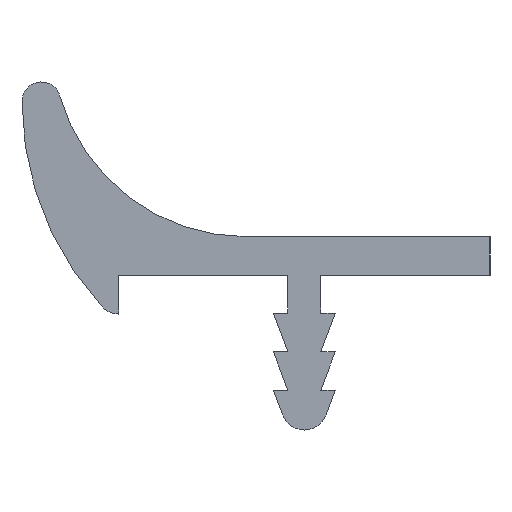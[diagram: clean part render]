
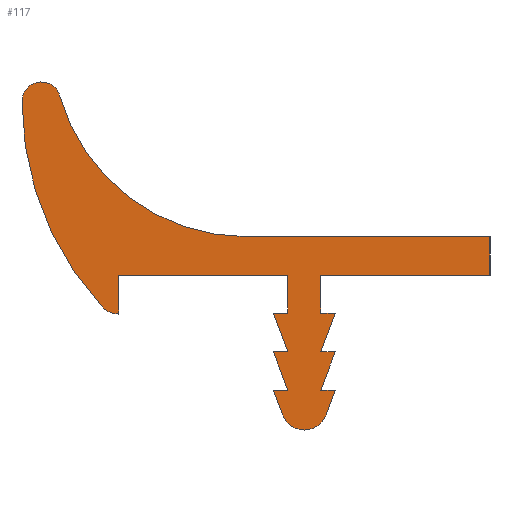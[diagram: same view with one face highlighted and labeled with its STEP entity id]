
A CAD part, left-side view. The second image highlights one B-rep face of the part: STEP entity #117.
In plain terms, the highlighted planar face has unit normal (-1, 0, 0).
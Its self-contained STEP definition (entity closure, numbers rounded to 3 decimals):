
#117=ADVANCED_FACE('',(#849),#875,.T.);
#140=VERTEX_POINT('',#141);
#141=CARTESIAN_POINT('',(-180.,14.597,
   9.));
#142=EDGE_CURVE('',#148,#140,#143,.T.);
#143=CIRCLE('',#144,1.);
#144=AXIS2_PLACEMENT_3D('',#145,#146,#147);
#145=CARTESIAN_POINT('',(-180.,13.597,
   9.));
#146=DIRECTION('',(-1.,0.,0.));
#147=DIRECTION('',(0.,1.,0.));
#148=VERTEX_POINT('',#149);
#149=CARTESIAN_POINT('',(-180.,12.635,
   9.273));
#179=VERTEX_POINT('',#180);
#180=CARTESIAN_POINT('',(-180.,10.458,
   -1.623));
#181=EDGE_CURVE('',#140,#179,#182,.T.);
#182=CIRCLE('',#183,15.694);
#183=AXIS2_PLACEMENT_3D('',#184,#185,#186);
#184=CARTESIAN_POINT('',(-180.,-1.098,
   8.996));
#185=DIRECTION('',(-1.,0.,0.));
#186=DIRECTION('',(0.,-1.,0.));
#211=VERTEX_POINT('',#212);
#212=CARTESIAN_POINT('',(-180.,9.6,
   -2.));
#213=EDGE_CURVE('',#179,#211,#214,.T.);
#214=CIRCLE('',#215,1.166);
#215=AXIS2_PLACEMENT_3D('',#216,#217,#218);
#216=CARTESIAN_POINT('',(-180.,9.6,
   -0.834));
#217=DIRECTION('',(-1.,0.,0.));
#218=DIRECTION('',(0.,1.,0.));
#242=VERTEX_POINT('',#243);
#243=CARTESIAN_POINT('',(-180.,9.6,
   0.));
#244=EDGE_CURVE('',#211,#242,#245,.T.);
#245=LINE('',#246,#247);
#246=CARTESIAN_POINT('',(-180.,9.6,
   -2.));
#247=VECTOR('',#248,1.);
#248=DIRECTION('',(0.,0.,1.));
#272=VERTEX_POINT('',#273);
#273=CARTESIAN_POINT('',(-180.,0.85,
   0.));
#274=EDGE_CURVE('',#242,#272,#275,.T.);
#275=LINE('',#276,#277);
#276=CARTESIAN_POINT('',(-180.,0.85,
   0.));
#277=VECTOR('',#278,1.);
#278=DIRECTION('',(0.,-1.,0.));
#302=VERTEX_POINT('',#303);
#303=CARTESIAN_POINT('',(-180.,0.85,-1.95));
#304=EDGE_CURVE('',#272,#302,#305,.T.);
#305=LINE('',#306,#307);
#306=CARTESIAN_POINT('',(-180.,0.85,
   0.));
#307=VECTOR('',#308,1.);
#308=DIRECTION('',(0.,0.,-1.));
#332=VERTEX_POINT('',#333);
#333=CARTESIAN_POINT('',(-180.,1.6,-1.95));
#334=EDGE_CURVE('',#302,#332,#335,.T.);
#335=LINE('',#336,#337);
#336=CARTESIAN_POINT('',(-180.,1.6,-1.95));
#337=VECTOR('',#338,1.);
#338=DIRECTION('',(0.,1.,0.));
#362=VERTEX_POINT('',#363);
#363=CARTESIAN_POINT('',(-180.,0.85,-3.95));
#364=EDGE_CURVE('',#332,#362,#365,.T.);
#365=LINE('',#366,#367);
#366=CARTESIAN_POINT('',(-180.,0.85,-3.95));
#367=VECTOR('',#368,1.);
#368=DIRECTION('',(0.,-0.351,
   -0.936));
#392=VERTEX_POINT('',#393);
#393=CARTESIAN_POINT('',(-180.,1.6,-3.95));
#394=EDGE_CURVE('',#362,#392,#395,.T.);
#395=LINE('',#396,#397);
#396=CARTESIAN_POINT('',(-180.,1.6,-3.95));
#397=VECTOR('',#398,1.);
#398=DIRECTION('',(0.,1.,0.));
#422=VERTEX_POINT('',#423);
#423=CARTESIAN_POINT('',(-180.,0.85,-5.95));
#424=EDGE_CURVE('',#392,#422,#425,.T.);
#425=LINE('',#426,#427);
#426=CARTESIAN_POINT('',(-180.,1.6,-3.95));
#427=VECTOR('',#428,1.);
#428=DIRECTION('',(0.,-0.351,
   -0.936));
#452=VERTEX_POINT('',#453);
#453=CARTESIAN_POINT('',(-180.,1.6,-5.95));
#454=EDGE_CURVE('',#422,#452,#455,.T.);
#455=LINE('',#456,#457);
#456=CARTESIAN_POINT('',(-180.,0.85,-5.95));
#457=VECTOR('',#458,1.);
#458=DIRECTION('',(0.,1.,0.));
#482=VERTEX_POINT('',#483);
#483=CARTESIAN_POINT('',(-180.,1.126,
   -7.215));
#484=EDGE_CURVE('',#452,#482,#485,.T.);
#485=LINE('',#486,#487);
#486=CARTESIAN_POINT('',(-180.,1.126,
   -7.215));
#487=VECTOR('',#488,1.);
#488=DIRECTION('',(0.,-0.351,
   -0.936));
#513=VERTEX_POINT('',#514);
#514=CARTESIAN_POINT('',(-180.,-1.126,
   -7.215));
#515=EDGE_CURVE('',#482,#513,#516,.T.);
#516=CIRCLE('',#517,1.202);
#517=AXIS2_PLACEMENT_3D('',#518,#519,#520);
#518=CARTESIAN_POINT('',(-180.,0.,-6.793));
#519=DIRECTION('',(-1.,0.,0.));
#520=DIRECTION('',(0.,1.,0.));
#544=VERTEX_POINT('',#545);
#545=CARTESIAN_POINT('',(-180.,-1.6,-5.95));
#546=EDGE_CURVE('',#513,#544,#547,.T.);
#547=LINE('',#548,#549);
#548=CARTESIAN_POINT('',(-180.,-1.126,
   -7.215));
#549=VECTOR('',#550,1.);
#550=DIRECTION('',(0.,-0.351,
   0.936));
#574=VERTEX_POINT('',#575);
#575=CARTESIAN_POINT('',(-180.,-0.85,-5.95));
#576=EDGE_CURVE('',#544,#574,#577,.T.);
#577=LINE('',#578,#579);
#578=CARTESIAN_POINT('',(-180.,-0.85,-5.95));
#579=VECTOR('',#580,1.);
#580=DIRECTION('',(0.,1.,0.));
#604=VERTEX_POINT('',#605);
#605=CARTESIAN_POINT('',(-180.,-1.6,-3.95));
#606=EDGE_CURVE('',#574,#604,#607,.T.);
#607=LINE('',#608,#609);
#608=CARTESIAN_POINT('',(-180.,-1.6,-3.95));
#609=VECTOR('',#610,1.);
#610=DIRECTION('',(0.,-0.351,
   0.936));
#634=VERTEX_POINT('',#635);
#635=CARTESIAN_POINT('',(-180.,-0.85,-3.95));
#636=EDGE_CURVE('',#604,#634,#637,.T.);
#637=LINE('',#638,#639);
#638=CARTESIAN_POINT('',(-180.,-0.85,-3.95));
#639=VECTOR('',#640,1.);
#640=DIRECTION('',(0.,1.,0.));
#664=VERTEX_POINT('',#665);
#665=CARTESIAN_POINT('',(-180.,-1.6,-1.95));
#666=EDGE_CURVE('',#634,#664,#667,.T.);
#667=LINE('',#668,#669);
#668=CARTESIAN_POINT('',(-180.,-0.85,-3.95));
#669=VECTOR('',#670,1.);
#670=DIRECTION('',(0.,-0.351,
   0.936));
#694=VERTEX_POINT('',#695);
#695=CARTESIAN_POINT('',(-180.,-0.85,-1.95));
#696=EDGE_CURVE('',#664,#694,#697,.T.);
#697=LINE('',#698,#699);
#698=CARTESIAN_POINT('',(-180.,-1.6,-1.95));
#699=VECTOR('',#700,1.);
#700=DIRECTION('',(0.,1.,0.));
#724=VERTEX_POINT('',#725);
#725=CARTESIAN_POINT('',(-180.,-0.85,
   0.));
#726=EDGE_CURVE('',#694,#724,#727,.T.);
#727=LINE('',#728,#729);
#728=CARTESIAN_POINT('',(-180.,-0.85,
   0.));
#729=VECTOR('',#730,1.);
#730=DIRECTION('',(0.,0.,1.));
#754=VERTEX_POINT('',#755);
#755=CARTESIAN_POINT('',(-180.,-9.6,
   0.));
#756=EDGE_CURVE('',#724,#754,#757,.T.);
#757=LINE('',#758,#759);
#758=CARTESIAN_POINT('',(-180.,-9.6,
   0.));
#759=VECTOR('',#760,1.);
#760=DIRECTION('',(0.,-1.,0.));
#784=VERTEX_POINT('',#785);
#785=CARTESIAN_POINT('',(-180.,-9.6,2.));
#786=EDGE_CURVE('',#754,#784,#787,.T.);
#787=LINE('',#788,#789);
#788=CARTESIAN_POINT('',(-180.,-9.6,2.));
#789=VECTOR('',#790,1.);
#790=DIRECTION('',(0.,0.,1.));
#814=VERTEX_POINT('',#815);
#815=CARTESIAN_POINT('',(-180.,3.014,2.));
#816=EDGE_CURVE('',#784,#814,#817,.T.);
#817=LINE('',#818,#819);
#818=CARTESIAN_POINT('',(-180.,-9.6,2.));
#819=VECTOR('',#820,1.);
#820=DIRECTION('',(0.,1.,0.));
#838=EDGE_CURVE('',#814,#148,#839,.T.);
#839=CIRCLE('',#840,10.);
#840=AXIS2_PLACEMENT_3D('',#841,#842,#843);
#841=CARTESIAN_POINT('',(-180.,3.014,12.));
#842=DIRECTION('',(1.,0.,0.));
#843=DIRECTION('',(0.,1.,0.));
#849=FACE_OUTER_BOUND('',#850,.T.);
#850=EDGE_LOOP('',(#851,#852,#853,#854,#855,#856,#857,#858,#859,#860,
   #861,#862,#863,#864,#865,#866,#867,#868,#869,#870,#871,#872,#873,#874
   ));
#851=ORIENTED_EDGE('',*,*,#142,.T.);
#852=ORIENTED_EDGE('',*,*,#181,.T.);
#853=ORIENTED_EDGE('',*,*,#213,.T.);
#854=ORIENTED_EDGE('',*,*,#244,.T.);
#855=ORIENTED_EDGE('',*,*,#274,.T.);
#856=ORIENTED_EDGE('',*,*,#304,.T.);
#857=ORIENTED_EDGE('',*,*,#334,.T.);
#858=ORIENTED_EDGE('',*,*,#364,.T.);
#859=ORIENTED_EDGE('',*,*,#394,.T.);
#860=ORIENTED_EDGE('',*,*,#424,.T.);
#861=ORIENTED_EDGE('',*,*,#454,.T.);
#862=ORIENTED_EDGE('',*,*,#484,.T.);
#863=ORIENTED_EDGE('',*,*,#515,.T.);
#864=ORIENTED_EDGE('',*,*,#546,.T.);
#865=ORIENTED_EDGE('',*,*,#576,.T.);
#866=ORIENTED_EDGE('',*,*,#606,.T.);
#867=ORIENTED_EDGE('',*,*,#636,.T.);
#868=ORIENTED_EDGE('',*,*,#666,.T.);
#869=ORIENTED_EDGE('',*,*,#696,.T.);
#870=ORIENTED_EDGE('',*,*,#726,.T.);
#871=ORIENTED_EDGE('',*,*,#756,.T.);
#872=ORIENTED_EDGE('',*,*,#786,.T.);
#873=ORIENTED_EDGE('',*,*,#816,.T.);
#874=ORIENTED_EDGE('',*,*,#838,.T.);
#875=PLANE('',#876);
#876=AXIS2_PLACEMENT_3D('',#877,#878,#879);
#877=CARTESIAN_POINT('',(-180.,13.597,
   9.));
#878=DIRECTION('',(-1.,0.,0.));
#879=DIRECTION('',(0.,-1.,0.));
